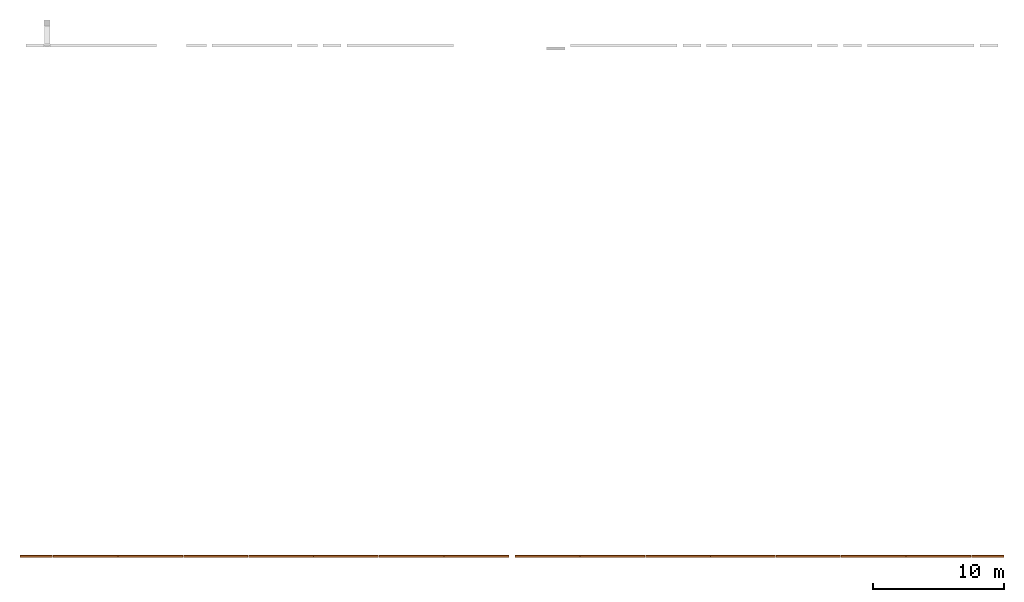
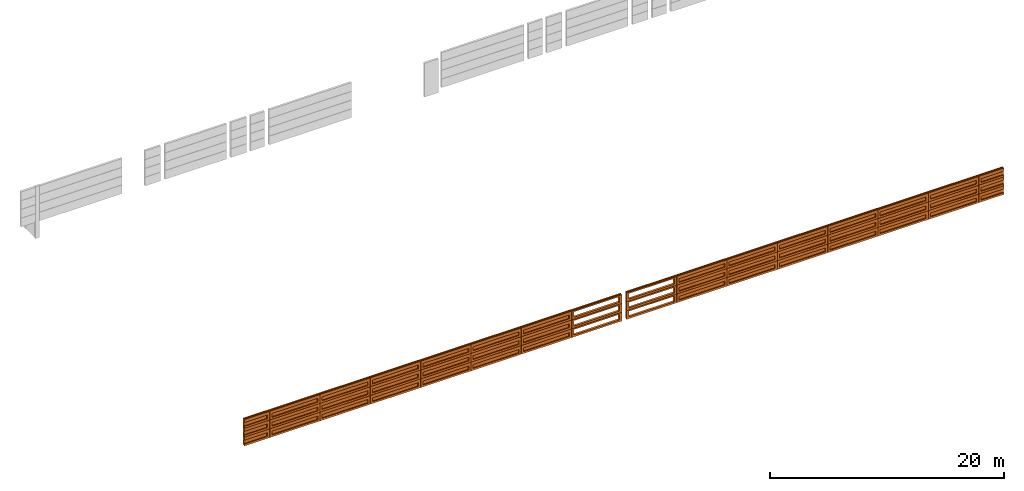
# One storey, part 3 of 3: 48 proxies.
"""IFC2X3 building model written with IfcOpenShell, lengths in millimetres."""

from ifc_helpers import new_model, entity, si_unit, converted_unit, derived_unit, direction, frame, origin, place, context, subcontext, project, spatial, faceted_brep, source, transform, mapped, material, type_object, type_shapes, element, save


model = new_model("IFC2X3")

# Units and contexts
model_context = context("Model", 3, precision=0.01, world=origin(), true_north=direction((6.12303176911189e-17, 1.0)))
body_context = subcontext(model_context, "Body", "Model", "MODEL_VIEW")
ifc_project = project(units=[si_unit("LENGTHUNIT", "METRE", prefix="MILLI"), si_unit("AREAUNIT", "SQUARE_METRE"), si_unit("VOLUMEUNIT", "CUBIC_METRE"), converted_unit("PLANEANGLEUNIT", "DEGREE", entity("IfcRatioMeasure", 0.0174532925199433), si_unit("PLANEANGLEUNIT", "RADIAN"), dimensions=[0, 0, 0, 0, 0, 0, 0]), si_unit("MASSUNIT", "GRAM", prefix="KILO"), derived_unit("MASSDENSITYUNIT", [(si_unit("MASSUNIT", "GRAM", prefix="KILO"), 1), (si_unit("LENGTHUNIT", "METRE"), -3)]), derived_unit("MOMENTOFINERTIAUNIT", [(si_unit("LENGTHUNIT", "METRE"), 4)]), si_unit("TIMEUNIT", "SECOND"), si_unit("FREQUENCYUNIT", "HERTZ"), si_unit("THERMODYNAMICTEMPERATUREUNIT", "DEGREE_CELSIUS"), derived_unit("THERMALTRANSMITTANCEUNIT", [(si_unit("MASSUNIT", "GRAM", prefix="KILO"), 1), (si_unit("THERMODYNAMICTEMPERATUREUNIT", "KELVIN"), -1), (si_unit("TIMEUNIT", "SECOND"), -3)]), derived_unit("VOLUMETRICFLOWRATEUNIT", [(si_unit("LENGTHUNIT", "METRE"), 3), (si_unit("TIMEUNIT", "SECOND"), -1)]), si_unit("ELECTRICCURRENTUNIT", "AMPERE"), si_unit("ELECTRICVOLTAGEUNIT", "VOLT"), si_unit("POWERUNIT", "WATT"), si_unit("FORCEUNIT", "NEWTON", prefix="KILO"), si_unit("ILLUMINANCEUNIT", "LUX"), si_unit("LUMINOUSFLUXUNIT", "LUMEN"), si_unit("LUMINOUSINTENSITYUNIT", "CANDELA"), derived_unit("USERDEFINED", [(si_unit("MASSUNIT", "GRAM", prefix="KILO"), -1), (si_unit("LENGTHUNIT", "METRE"), -2), (si_unit("TIMEUNIT", "SECOND"), 3), (si_unit("LUMINOUSFLUXUNIT", "LUMEN"), 1)]), derived_unit("LINEARVELOCITYUNIT", [(si_unit("LENGTHUNIT", "METRE"), 1), (si_unit("TIMEUNIT", "SECOND"), -1)]), si_unit("PRESSUREUNIT", "PASCAL"), derived_unit("USERDEFINED", [(si_unit("LENGTHUNIT", "METRE"), -2), (si_unit("MASSUNIT", "GRAM", prefix="KILO"), 1), (si_unit("TIMEUNIT", "SECOND"), -2)]), derived_unit("LINEARFORCEUNIT", [(si_unit("MASSUNIT", "GRAM", prefix="KILO"), 1), (si_unit("LENGTHUNIT", "METRE"), 1), (si_unit("TIMEUNIT", "SECOND"), -2), (si_unit("LENGTHUNIT", "METRE"), -1)]), derived_unit("PLANARFORCEUNIT", [(si_unit("MASSUNIT", "GRAM", prefix="KILO"), 1), (si_unit("LENGTHUNIT", "METRE"), 1), (si_unit("TIMEUNIT", "SECOND"), -2), (si_unit("LENGTHUNIT", "METRE"), -2)])], contexts=[model_context])

# Site, building, storey
site_placement = place(None, frame((10627.5135316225, 21939.0796949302, 0.0)))
site = spatial("IfcSite", under=ifc_project, at=site_placement, Name="Default", CompositionType="ELEMENT")
building_placement = place(site_placement, origin())
building = spatial("IfcBuilding", under=site, at=building_placement, CompositionType="ELEMENT")
storey_placement = place(building_placement, frame((0.0, 0.0, 7320.0)))
storey = spatial("IfcBuildingStorey", under=building, at=storey_placement, Name="R+2", CompositionType="ELEMENT", Elevation=7320.0)

# Proxies
ifc_material = material(Name="Concrete, Precast Smooth, Light Grey")
building_element_proxy_type_1 = type_object("IfcBuildingElementProxyType", Name="Panneaux fille 18 ajoures:Panneaux fille 18 ajoures", PredefinedType="NOTDEFINED", material=ifc_material)
shared_shape_1 = source(origin(), body_context, "Body", "Brep", [
    faceted_brep([(2469.0, -101.438076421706, -51.6077760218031), (2469.0, 0.0, -60.0), (2469.0, 0.0, 849.947802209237), (2469.0, -111.86949138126, 859.004887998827), (2469.0, -132.472854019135, 910.0), (2469.0, -205.0, 910.0), (2469.0, -205.0, 0.0), (2469.0, -122.139961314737, 0.0), (-2469.0, -101.438076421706, -51.6077760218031), (-2469.0, -122.139961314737, 0.0), (-2469.0, -205.0, 0.0), (-2469.0, -205.0, 910.0), (-2469.0, -132.472854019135, 910.0), (-2469.0, -111.86949138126, 859.004887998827), (-2469.0, 0.0, 849.947802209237), (-2469.0, 0.0, -60.0), (2266.0, 0.0, 711.195062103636), (-2247.406298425, 0.0, 711.195062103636), (-2247.406298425, 0.0, 138.918268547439), (2266.0, 0.0, 138.918268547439), (-2208.456298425, -205.0, 711.195062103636), (2227.05, -205.0, 711.195062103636), (2227.05, -205.0, 138.918268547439), (-2208.456298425, -205.0, 138.918268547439)], [[[0, 1, 2, 3, 4, 5, 6, 7]], [[8, 9, 10, 11, 12, 13, 14, 15]], [[2, 1, 15, 14], [16, 17, 18, 19]], [[3, 2, 14, 13]], [[4, 3, 13, 12]], [[5, 4, 12, 11]], [[6, 5, 11, 10], [20, 21, 22, 23]], [[7, 6, 10, 9]], [[0, 7, 9, 8]], [[1, 0, 8, 15]], [[20, 17, 16, 21]], [[22, 19, 18, 23]], [[21, 16, 19, 22]], [[17, 20, 23, 18]]]),
])
type_shapes(building_element_proxy_type_1, [shared_shape_1])
for number, where, z_axis, x_axis, name in (
    (1, (23878.4864683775, -22365.8040495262, 1160.0), (0.0, 0.0, 1.0), (-1.0, 0.0, 0.0), "Panneaux fille 18 ajoures:Panneaux fille 18 ajoures"),
    (2, (23878.4864683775, -22365.8040495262, 2080.0), (0.0, 0.0, 1.0), (-1.0, 0.0, 0.0), "Panneaux fille 18 ajoures:Panneaux fille 18 ajoures"),
    (3, (23878.4864683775, -22365.8040495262, 3000.0), (0.0, 0.0, 1.0), (-1.0, 0.0, 0.0), "Panneaux fille 18 ajoures:Panneaux fille 18 ajoures"),
):
    element("IfcBuildingElementProxy", number, at=place(storey_placement, frame(where, z_axis=z_axis, x_axis=x_axis)), inside=storey, type_object=building_element_proxy_type_1, material=ifc_material, Name=name, ObjectType="Panneaux fille 18 ajoures:Panneaux fille 18 ajoures", context=body_context, shape_type="MappedRepresentation", body=[
        mapped(shared_shape_1, transform((0.0, 0.0, 0.0), scale=1.0)),
    ])
building_element_proxy_type_2 = type_object("IfcBuildingElementProxyType", Name="Panneaux fille 18:Panneaux fille 18", PredefinedType="NOTDEFINED", material=ifc_material)
shared_shape_2 = source(origin(), body_context, "Body", "Brep", [
    faceted_brep([(2469.0, -101.438076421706, -51.6077760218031), (2469.0, 0.0, -60.0), (2469.0, 0.0, 849.947802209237), (2469.0, -111.86949138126, 859.004887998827), (2469.0, -132.472854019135, 910.0), (2469.0, -205.0, 910.0), (2469.0, -205.0, 0.0), (2469.0, -122.139961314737, 0.0), (-2469.0, -101.438076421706, -51.6077760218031), (-2469.0, -122.139961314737, 0.0), (-2469.0, -205.0, 0.0), (-2469.0, -205.0, 910.0), (-2469.0, -132.472854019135, 910.0), (-2469.0, -111.86949138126, 859.004887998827), (-2469.0, 0.0, 849.947802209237), (-2469.0, 0.0, -60.0), (2266.0, 0.0, 540.228023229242), (-2266.21685996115, 0.0, 540.228023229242), (-2266.21685996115, 0.0, 138.918268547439), (2266.0, 0.0, 138.918268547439), (2247.39157001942, -97.9391051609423, 540.228023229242), (-2247.60842998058, -97.9391051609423, 540.228023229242), (-2247.60842998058, -97.9391051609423, 138.918268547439), (2247.39157001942, -97.9391051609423, 138.918268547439)], [[[0, 1, 2, 3, 4, 5, 6, 7]], [[8, 9, 10, 11, 12, 13, 14, 15]], [[2, 1, 15, 14], [16, 17, 18, 19]], [[3, 2, 14, 13]], [[4, 3, 13, 12]], [[5, 4, 12, 11]], [[6, 5, 11, 10]], [[7, 6, 10, 9]], [[0, 7, 9, 8]], [[1, 0, 8, 15]], [[20, 21, 17, 16]], [[22, 23, 19, 18]], [[23, 20, 16, 19]], [[21, 22, 18, 17]], [[21, 20, 23, 22]]]),
])
type_shapes(building_element_proxy_type_2, [shared_shape_2])
for number, where, z_axis, x_axis, name in (
    (4, (18920.865600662, -22365.8040495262, 1160.0), (0.0, 0.0, 1.0), (-1.0, 0.0, 0.0), "Panneaux fille 18:Panneaux fille 18"),
    (5, (18920.865600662, -22365.8040495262, 2080.0), (0.0, 0.0, 1.0), (-1.0, 0.0, 0.0), "Panneaux fille 18:Panneaux fille 18"),
    (6, (18920.865600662, -22365.8040495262, 3000.0), (0.0, 0.0, 1.0), (-1.0, 0.0, 0.0), "Panneaux fille 18:Panneaux fille 18"),
    (7, (13960.7458132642, -22365.8040495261, 1160.0), (0.0, 0.0, 1.0), (-1.0, 0.0, 0.0), "Panneaux fille 18:Panneaux fille 18"),
    (8, (13960.7458132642, -22365.8040495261, 2080.0), (0.0, 0.0, 1.0), (-1.0, 0.0, 0.0), "Panneaux fille 18:Panneaux fille 18"),
    (9, (13960.7458132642, -22365.8040495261, 3000.0), (0.0, 0.0, 1.0), (-1.0, 0.0, 0.0), "Panneaux fille 18:Panneaux fille 18"),
    (10, (9000.62602586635, -22365.8040495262, 1160.0), (0.0, 0.0, 1.0), (-1.0, 0.0, 0.0), "Panneaux fille 18:Panneaux fille 18"),
    (11, (9000.62602586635, -22365.8040495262, 2080.0), (0.0, 0.0, 1.0), (-1.0, 0.0, 0.0), "Panneaux fille 18:Panneaux fille 18"),
    (12, (9000.62602586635, -22365.8040495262, 3000.0), (0.0, 0.0, 1.0), (-1.0, 0.0, 0.0), "Panneaux fille 18:Panneaux fille 18"),
    (13, (4040.50623846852, -22365.8040495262, 1160.0), (0.0, 0.0, 1.0), (-1.0, 0.0, 0.0), "Panneaux fille 18:Panneaux fille 18"),
    (14, (4040.50623846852, -22365.8040495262, 2080.0), (0.0, 0.0, 1.0), (-1.0, 0.0, 0.0), "Panneaux fille 18:Panneaux fille 18"),
    (15, (4040.50623846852, -22365.8040495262, 3000.0), (0.0, 0.0, 1.0), (-1.0, 0.0, 0.0), "Panneaux fille 18:Panneaux fille 18"),
    (16, (-919.613548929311, -22365.8040495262, 1160.0), (0.0, 0.0, 1.0), (-1.0, 0.0, 0.0), "Panneaux fille 18:Panneaux fille 18"),
    (17, (-919.613548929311, -22365.8040495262, 2080.0), (0.0, 0.0, 1.0), (-1.0, 0.0, 0.0), "Panneaux fille 18:Panneaux fille 18"),
    (18, (-919.613548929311, -22365.8040495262, 3000.0), (0.0, 0.0, 1.0), (-1.0, 0.0, 0.0), "Panneaux fille 18:Panneaux fille 18"),
    (19, (-5879.73333632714, -22365.8040495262, 1160.0), (0.0, 0.0, 1.0), (-1.0, 0.0, 0.0), "Panneaux fille 18:Panneaux fille 18"),
    (20, (-5879.73333632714, -22365.8040495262, 2080.0), (0.0, 0.0, 1.0), (-1.0, 0.0, 0.0), "Panneaux fille 18:Panneaux fille 18"),
    (21, (-5879.73333632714, -22365.8040495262, 3000.0), (0.0, 0.0, 1.0), (-1.0, 0.0, 0.0), "Panneaux fille 18:Panneaux fille 18"),
):
    element("IfcBuildingElementProxy", number, at=place(storey_placement, frame(where, z_axis=z_axis, x_axis=x_axis)), inside=storey, type_object=building_element_proxy_type_2, material=ifc_material, Name=name, ObjectType="Panneaux fille 18:Panneaux fille 18", context=body_context, shape_type="MappedRepresentation", body=[
        mapped(shared_shape_2, transform((0.0, 0.0, 0.0), scale=1.0)),
    ])
building_element_proxy_type_3 = type_object("IfcBuildingElementProxyType", Name="Panneaux fille 18:Panneaux fille 18", PredefinedType="NOTDEFINED", material=ifc_material)
shared_shape_3 = source(origin(), body_context, "Body", "Brep", [
    faceted_brep([(2469.0, 101.438076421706, -51.6077760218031), (2469.0, 122.139961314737, 0.0), (2469.0, 205.0, 0.0), (2469.0, 205.0, 910.0), (2469.0, 132.472854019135, 910.0), (2469.0, 111.86949138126, 859.004887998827), (2469.0, 0.0, 849.947802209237), (2469.0, 0.0, -60.0), (-2469.0, 101.438076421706, -51.6077760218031), (-2469.0, 0.0, -60.0), (-2469.0, 0.0, 849.947802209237), (-2469.0, 111.86949138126, 859.004887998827), (-2469.0, 132.472854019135, 910.0), (-2469.0, 205.0, 910.0), (-2469.0, 205.0, 0.0), (-2469.0, 122.139961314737, 0.0), (2266.0, 0.0, 540.228023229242), (2266.0, 0.0, 138.918268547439), (-2266.21685996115, 0.0, 138.918268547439), (-2266.21685996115, 0.0, 540.228023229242), (2247.39157001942, 97.9391051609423, 540.228023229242), (-2247.60842998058, 97.9391051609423, 540.228023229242), (-2247.60842998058, 97.9391051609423, 138.918268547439), (2247.39157001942, 97.9391051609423, 138.918268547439)], [[[0, 1, 2, 3, 4, 5, 6, 7]], [[8, 9, 10, 11, 12, 13, 14, 15]], [[6, 10, 9, 7], [16, 17, 18, 19]], [[5, 11, 10, 6]], [[4, 12, 11, 5]], [[3, 13, 12, 4]], [[2, 14, 13, 3]], [[1, 15, 14, 2]], [[0, 8, 15, 1]], [[7, 9, 8, 0]], [[20, 16, 19, 21]], [[22, 18, 17, 23]], [[23, 17, 16, 20]], [[21, 19, 18, 22]], [[21, 22, 23, 20]]]),
])
type_shapes(building_element_proxy_type_3, [shared_shape_3])
for number, where, name in (
    (22, (34234.1073360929, -22365.8040495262, 1160.0), "Panneaux fille 18:Panneaux fille 18"),
    (23, (34234.1073360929, -22365.8040495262, 2080.0), "Panneaux fille 18:Panneaux fille 18"),
    (24, (34234.1073360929, -22365.8040495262, 3000.0), "Panneaux fille 18:Panneaux fille 18"),
    (25, (39194.2271234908, -22365.8040495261, 1160.0), "Panneaux fille 18:Panneaux fille 18"),
    (26, (39194.2271234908, -22365.8040495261, 2080.0), "Panneaux fille 18:Panneaux fille 18"),
    (27, (39194.2271234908, -22365.8040495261, 3000.0), "Panneaux fille 18:Panneaux fille 18"),
    (28, (44154.3469108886, -22365.8040495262, 1160.0), "Panneaux fille 18:Panneaux fille 18"),
    (29, (44154.3469108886, -22365.8040495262, 2080.0), "Panneaux fille 18:Panneaux fille 18"),
    (30, (44154.3469108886, -22365.8040495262, 3000.0), "Panneaux fille 18:Panneaux fille 18"),
    (31, (49114.4666982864, -22365.8040495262, 1160.0), "Panneaux fille 18:Panneaux fille 18"),
    (32, (49114.4666982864, -22365.8040495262, 2080.0), "Panneaux fille 18:Panneaux fille 18"),
    (33, (49114.4666982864, -22365.8040495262, 3000.0), "Panneaux fille 18:Panneaux fille 18"),
    (34, (54074.5864856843, -22365.8040495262, 1160.0), "Panneaux fille 18:Panneaux fille 18"),
    (35, (54074.5864856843, -22365.8040495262, 2080.0), "Panneaux fille 18:Panneaux fille 18"),
    (36, (54074.5864856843, -22365.8040495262, 3000.0), "Panneaux fille 18:Panneaux fille 18"),
    (37, (59034.7062730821, -22365.8040495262, 1160.0), "Panneaux fille 18:Panneaux fille 18"),
    (38, (59034.7062730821, -22365.8040495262, 2080.0), "Panneaux fille 18:Panneaux fille 18"),
    (39, (59034.7062730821, -22365.8040495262, 3000.0), "Panneaux fille 18:Panneaux fille 18"),
):
    element("IfcBuildingElementProxy", number, at=place(storey_placement, frame(where)), inside=storey, type_object=building_element_proxy_type_3, material=ifc_material, Name=name, ObjectType="Panneaux fille 18:Panneaux fille 18", context=body_context, shape_type="MappedRepresentation", body=[
        mapped(shared_shape_3, transform((0.0, 0.0, 0.0), scale=1.0)),
    ])
building_element_proxy_type_4 = type_object("IfcBuildingElementProxyType", Name="Panneaux fille 18 ajoures:Panneaux fille 18 ajoures", PredefinedType="NOTDEFINED", material=ifc_material)
shared_shape_4 = source(origin(), body_context, "Body", "Brep", [
    faceted_brep([(2469.0, 101.438076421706, -51.6077760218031), (2469.0, 122.139961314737, 0.0), (2469.0, 205.0, 0.0), (2469.0, 205.0, 910.0), (2469.0, 132.472854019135, 910.0), (2469.0, 111.86949138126, 859.004887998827), (2469.0, 0.0, 849.947802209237), (2469.0, 0.0, -60.0), (-2469.0, 101.438076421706, -51.6077760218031), (-2469.0, 0.0, -60.0), (-2469.0, 0.0, 849.947802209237), (-2469.0, 111.86949138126, 859.004887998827), (-2469.0, 132.472854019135, 910.0), (-2469.0, 205.0, 910.0), (-2469.0, 205.0, 0.0), (-2469.0, 122.139961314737, 0.0), (2266.0, 0.0, 711.195062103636), (2266.0, 0.0, 138.918268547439), (-2247.406298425, 0.0, 138.918268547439), (-2247.406298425, 0.0, 711.195062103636), (-2208.456298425, 205.0, 711.195062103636), (-2208.456298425, 205.0, 138.918268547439), (2227.05, 205.0, 138.918268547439), (2227.05, 205.0, 711.195062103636)], [[[0, 1, 2, 3, 4, 5, 6, 7]], [[8, 9, 10, 11, 12, 13, 14, 15]], [[16, 17, 18, 19], [6, 10, 9, 7]], [[5, 11, 10, 6]], [[4, 12, 11, 5]], [[3, 13, 12, 4]], [[2, 14, 13, 3], [20, 21, 22, 23]], [[1, 15, 14, 2]], [[0, 8, 15, 1]], [[7, 9, 8, 0]], [[20, 23, 16, 19]], [[22, 21, 18, 17]], [[23, 22, 17, 16]], [[19, 18, 21, 20]]], outer=[[True], [True], [False, True], [True], [True], [True], [True, False], [True], [True], [True], [True], [True], [True], [True]]),
])
type_shapes(building_element_proxy_type_4, [shared_shape_4])
for number, where, name in (
    (40, (29276.4864683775, -22365.8040495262, 1160.0), "Panneaux fille 18 ajoures:Panneaux fille 18 ajoures"),
    (41, (29276.4864683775, -22365.8040495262, 2080.0), "Panneaux fille 18 ajoures:Panneaux fille 18 ajoures"),
    (42, (29276.4864683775, -22365.8040495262, 3000.0), "Panneaux fille 18 ajoures:Panneaux fille 18 ajoures"),
):
    element("IfcBuildingElementProxy", number, at=place(storey_placement, frame(where)), inside=storey, type_object=building_element_proxy_type_4, material=ifc_material, Name=name, ObjectType="Panneaux fille 18 ajoures:Panneaux fille 18 ajoures", context=body_context, shape_type="MappedRepresentation", body=[
        mapped(shared_shape_4, transform((0.0, 0.0, 0.0), scale=1.0)),
    ])
building_element_proxy_type_5 = type_object("IfcBuildingElementProxyType", Name="Panneaux fille 18 les extremes:Panneaux fille 18 les extremes", PredefinedType="NOTDEFINED", material=ifc_material)
shared_shape_5 = source(origin(), body_context, "Body", "Brep", [
    faceted_brep([(0.0, -101.438076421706, -51.6077760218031), (0.0, 0.0, -60.0), (0.0, 0.0, 138.918268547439), (0.0, -97.9391051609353, 138.918268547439), (0.0, -97.9391051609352, 540.228023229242), (0.0, 0.0, 540.228023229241), (0.0, 0.0, 849.947802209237), (0.0, -111.86949138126, 859.004887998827), (0.0, -132.472854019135, 910.0), (0.0, -205.0, 910.0), (0.0, -205.0, 0.0), (0.0, -122.139961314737, 0.0), (-2471.0, -101.438076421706, -51.6077760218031), (-2471.0, -122.139961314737, 0.0), (-2471.0, -205.0, 0.0), (-2471.0, -205.0, 910.0), (-2471.0, -132.472854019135, 910.0), (-2471.0, -111.86949138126, 859.004887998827), (-2471.0, 0.0, 849.947802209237), (-2471.0, 0.0, -60.0), (-2268.21685996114, 0.0, 540.228023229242), (-2268.21685996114, 0.0, 138.918268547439), (-2249.60842998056, -97.939105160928, 540.228023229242), (-2249.60842998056, -97.939105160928, 138.918268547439)], [[[0, 1, 2, 3, 4, 5, 6, 7, 8, 9, 10, 11]], [[12, 13, 14, 15, 16, 17, 18, 19]], [[19, 18, 6, 5, 20, 21, 2, 1]], [[7, 6, 18, 17]], [[8, 7, 17, 16]], [[9, 8, 16, 15]], [[10, 9, 15, 14]], [[11, 10, 14, 13]], [[0, 11, 13, 12]], [[1, 0, 12, 19]], [[4, 22, 20, 5]], [[21, 23, 3, 2]], [[22, 23, 21, 20]], [[23, 22, 4, 3]]]),
])
type_shapes(building_element_proxy_type_5, [shared_shape_5])
for number, where, z_axis, x_axis, name in (
    (43, (-10849.7333363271, -22365.8040495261, 1160.0), (0.0, 0.0, 1.0), (-1.0, 0.0, 0.0), "Panneaux fille 18 les extremes:Panneaux fille 18 les extremes"),
    (44, (-10849.7333363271, -22365.8040495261, 2080.0), (0.0, 0.0, 1.0), (-1.0, 0.0, 0.0), "Panneaux fille 18 les extremes:Panneaux fille 18 les extremes"),
    (45, (-10849.7333363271, -22365.8040495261, 3000.0), (0.0, 0.0, 1.0), (-1.0, 0.0, 0.0), "Panneaux fille 18 les extremes:Panneaux fille 18 les extremes"),
):
    element("IfcBuildingElementProxy", number, at=place(storey_placement, frame(where, z_axis=z_axis, x_axis=x_axis)), inside=storey, type_object=building_element_proxy_type_5, material=ifc_material, Name=name, ObjectType="Panneaux fille 18 les extremes:Panneaux fille 18 les extremes", context=body_context, shape_type="MappedRepresentation", body=[
        mapped(shared_shape_5, transform((0.0, 0.0, 0.0), scale=1.0)),
    ])
building_element_proxy_type_6 = type_object("IfcBuildingElementProxyType", Name="Panneaux fille 18 les extremes:Panneaux fille 18 les extremes", PredefinedType="NOTDEFINED", material=ifc_material)
shared_shape_6 = source(origin(), body_context, "Body", "Brep", [
    faceted_brep([(0.0, 101.438076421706, -51.6077760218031), (0.0, 122.139961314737, 0.0), (0.0, 205.0, 0.0), (0.0, 205.0, 910.0), (0.0, 132.472854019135, 910.0), (0.0, 111.86949138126, 859.004887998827), (0.0, 0.0, 849.947802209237), (0.0, 0.0, 540.228023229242), (0.0, 97.9391051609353, 540.228023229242), (0.0, 97.9391051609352, 138.918268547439), (0.0, 0.0, 138.918268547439), (0.0, 0.0, -60.0), (-2471.0, 101.438076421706, -51.6077760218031), (-2471.0, 0.0, -60.0), (-2471.0, 0.0, 849.947802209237), (-2471.0, 111.86949138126, 859.004887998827), (-2471.0, 132.472854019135, 910.0), (-2471.0, 205.0, 910.0), (-2471.0, 205.0, 0.0), (-2471.0, 122.139961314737, 0.0), (-2268.21685996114, 0.0, 138.918268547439), (-2268.21685996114, 0.0, 540.228023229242), (-2249.60842998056, 97.939105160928, 540.228023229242), (-2249.60842998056, 97.939105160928, 138.918268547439)], [[[0, 1, 2, 3, 4, 5, 6, 7, 8, 9, 10, 11]], [[12, 13, 14, 15, 16, 17, 18, 19]], [[13, 11, 10, 20, 21, 7, 6, 14]], [[5, 15, 14, 6]], [[4, 16, 15, 5]], [[3, 17, 16, 4]], [[2, 18, 17, 3]], [[1, 19, 18, 2]], [[0, 12, 19, 1]], [[11, 13, 12, 0]], [[8, 7, 21, 22]], [[20, 10, 9, 23]], [[22, 21, 20, 23]], [[23, 9, 8, 22]]]),
])
type_shapes(building_element_proxy_type_6, [shared_shape_6])
for number, where, name in (
    (46, (64004.7062730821, -22365.8040495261, 1160.0), "Panneaux fille 18 les extremes:Panneaux fille 18 les extremes"),
    (47, (64004.7062730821, -22365.8040495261, 2080.0), "Panneaux fille 18 les extremes:Panneaux fille 18 les extremes"),
    (48, (64004.7062730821, -22365.8040495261, 3000.0), "Panneaux fille 18 les extremes:Panneaux fille 18 les extremes"),
):
    element("IfcBuildingElementProxy", number, at=place(storey_placement, frame(where)), inside=storey, type_object=building_element_proxy_type_6, material=ifc_material, Name=name, ObjectType="Panneaux fille 18 les extremes:Panneaux fille 18 les extremes", context=body_context, shape_type="MappedRepresentation", body=[
        mapped(shared_shape_6, transform((0.0, 0.0, 0.0), scale=1.0)),
    ])

save(model, "model.ifc")
